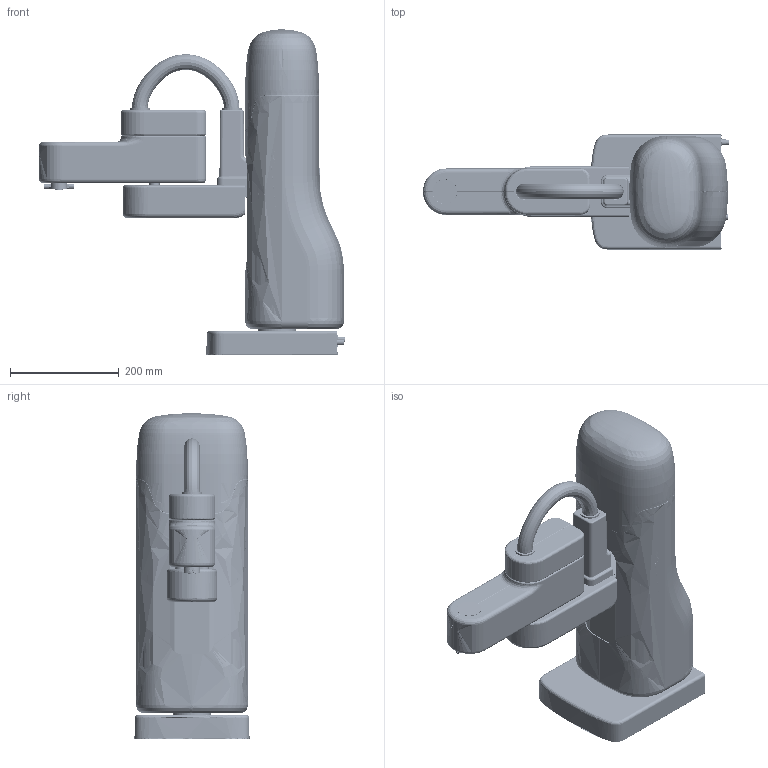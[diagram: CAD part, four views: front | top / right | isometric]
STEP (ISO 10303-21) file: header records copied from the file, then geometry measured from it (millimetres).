
FILE_DESCRIPTION(/* description */ (''),/* implementation_level */ '2;1');
FILE_NAME(/* name */ 'C:/Users/user/Desktop/DSR2-400_MN.step',/* time_stamp */ '2019-01-07T15:15:46+09:00',/* author */ (''),/* organization */ (''),/* preprocessor_version */ 'ST-DEVELOPER v17.2',/* originating_system */ 'Autodesk Translation Framework v7.6.0.251',/* authorisation */ '');
FILE_SCHEMA (('AUTOMOTIVE_DESIGN { 1 0 10303 214 3 1 1 }'));
Products named in the file (93): (未保存); °²×°µ××ù-a400-0; g-m17007-p303-8; g-m17007-p305-1; 2Õæ¿Õµç´Å·§×
é¼þ-a402-3; µçÆø°²×°°å-p3
19-1; SYJ312-5GD-M3_SINGLE_UNIT; _SYJ312-5GD_V; µç´Å·§¹Ì¶¨°
å-p321-0; M-3AU-4; KQ2T06-M5A; SYJ512-5GZD-M5_SINGLE_UNIT; _SYJ512-5GZD-M5; Õæ¿Õ·¢ÉúÆ÷ZU0
5S; KQ2L06-99A; KQ2T06-00A; PS1200-R06L-Q; KQ2R04-06A; KQ2TW06-00A; KQ2S06-M5A; M-3ALU-4; KQ2U04-06A; M-5T; M-5H-6; M-5UT; M-5H-4; KQ2L06-M5A; MECT-RT-101; KQ2W06-M5A; M3Ôú´ø×ù; copper pillar M3*5+3; HTPA72S3M150-B-H30; g-m17007-p301-4; B7208-DB; FUNT40; KQ2E06-00AJ; _KQ2E06-00_BODY_KJ; _KQ2E06-00J_NUT; g-m17007-p316-2; MECT-RP-101 ...
Assembly tree (133 placements, depth 5):
  (未保存)
    °²×°µ××ù-a400-0
      g-m17007-p303-8
      g-m17007-p305-1
      2Õæ¿Õµç´Å·§×
é¼þ-a402-3
        µçÆø°²×°°å-p3
19-1
        SYJ312-5GD-M3_SINGLE_UNIT  x2
          _SYJ312-5GD_V
        µç´Å·§¹Ì¶¨°
å-p321-0
        M-3AU-4  x2
        SYJ512-5GZD-M5_SINGLE_UNIT  x2
          _SYJ512-5GZD-M5
        KQ2T06-M5A
        KQ2L06-M5A  x3
        Õæ¿Õ·¢ÉúÆ÷ZU0
5S  x2
        KQ2L06-99A  x2
        PS1200-R06L-Q  x2
        KQ2T06-00A
        KQ2R04-06A
        KQ2TW06-00A
        M-5UT  x2
        KQ2S06-M5A
        M-3ALU-4  x2
        KQ2U04-06A
        M-5T
        M-5H-6
        M-5H-4
        MECT-RT-101
          copper pillar M3*5+3  x4
        copper pillar M3*5+3  x5
        KQ2W06-M5A
        M3Ôú´ø×ù
      SCB8-10  x4
      SCB5-15  x4
      HTPA72S3M150-B-H30
      g-m17007-p301-4
      B7208-DB
      FUNT40
      KQ2E06-00AJ
        _KQ2E06-00_BODY_KJ
        _KQ2E06-00J_NUT  x2
      copper pillar M3*4+5  x4
      g-m17007-p316-2
      ´ÅÌú×é¼þ  x3
        g-m17007-p511-0
        Magnet10*3
      MECT-RP-101
        A7D-206²¦Âë¿ª¹Ø
      g-m17007-p310-4
    Ò»Öá-J4-a100-1
      g-m17007-p103-12
      °×É«¸Ç°å-p811-3
      2Í¨µÀ×é¼þ-a103-0
        Ò»½×FUNT15
        Ò»½×B7002-DB
        g-m17007-p121-1
        ÃÜ·â×ù-p513-3
        Ò»½×-M-5H-6  x4
        40³ÝÖ±³ÝÂÖGEAHB0
          40³ÝÖ±³ÝÂÖ_GEAHB0
Bounding box: 561.7 x 211.17 x 597.44 mm (x, y, z)
Volume: 3001370.3 mm3; surface area: 2023305.3 mm2
Topology: 138 solids, 140 shells, 9026 faces, 24572 edges, 16129 vertices
Faces by surface type: plane 3832, cylinder 3432, bspline 883, cone 728, torus 102, sphere 49
Full cylindrical faces by diameter (mm): 1.2 x6, 1.4 x2, 1.5 x4, 1.6 x19, 1.8 x7, 2 x11, 2.15 x4, 2.3 x4, 2.459 x6, 2.5 x122, 2.55 x2, 2.6 x12, 2.7 x4, 3 x56, 3.2 x30, 3.3 x16, 3.4 x6, 3.5 x18, 4 x19, 4.134 x13, 4.15 x4, 4.2 x39, 4.5 x5, 4.8 x3, 5 x50, 5.5 x16, 5.85 x1, 5.9 x1, 6 x33, 6.1 x2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
Entity records: 487313 total; most frequent: CARTESIAN_POINT 273478, ORIENTED_EDGE 43654, DIRECTION 42275, EDGE_CURVE 21827, AXIS2_PLACEMENT_3D 16040, VERTEX_POINT 14339, LINE 10195, VECTOR 10195
